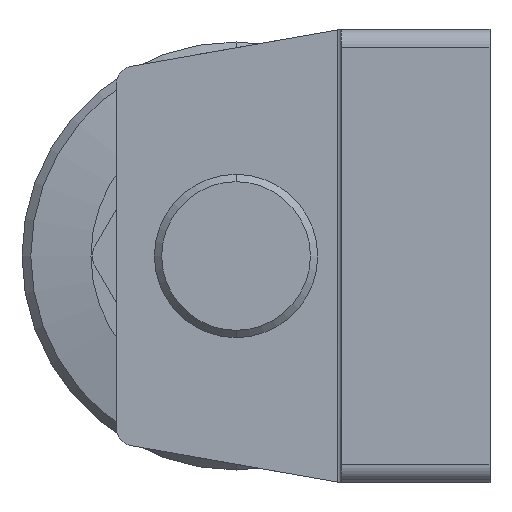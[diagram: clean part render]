
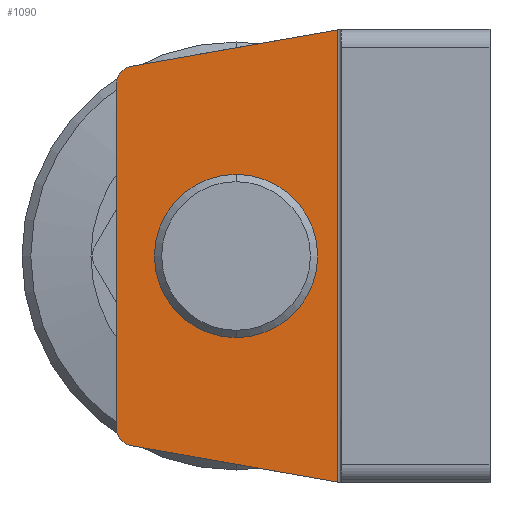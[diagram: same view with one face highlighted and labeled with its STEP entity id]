
A CAD part, left-side view. The second image highlights one B-rep face of the part: STEP entity #1090.
In plain terms, the highlighted planar face has unit normal (-1, 0, 0).
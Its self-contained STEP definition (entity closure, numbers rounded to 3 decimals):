
#44 = CARTESIAN_POINT ( 'NONE',  ( -41., 42., 62.5 ) ) ;
#63 = DIRECTION ( 'NONE',  ( 0., 0., -1. ) ) ;
#137 = DIRECTION ( 'NONE',  ( 1., 0., 0. ) ) ;
#141 = CIRCLE ( 'NONE', #2208, 5. ) ;
#237 = ORIENTED_EDGE ( 'NONE', *, *, #1395, .T. ) ;
#242 = EDGE_CURVE ( 'NONE', #2427, #638, #141, .T. ) ;
#246 = CARTESIAN_POINT ( 'NONE',  ( -41., 98.868, 52.296 ) ) ;
#357 = DIRECTION ( 'NONE',  ( 0., 0., -1. ) ) ;
#368 = CARTESIAN_POINT ( 'NONE',  ( -41., 103., 62.5 ) ) ;
#417 = VECTOR ( 'NONE', #2266, 1000. ) ;
#453 = ORIENTED_EDGE ( 'NONE', *, *, #1525, .T. ) ;
#536 = ORIENTED_EDGE ( 'NONE', *, *, #563, .T. ) ;
#563 = EDGE_CURVE ( 'NONE', #1045, #1267, #677, .T. ) ;
#629 = EDGE_CURVE ( 'NONE', #756, #1905, #1755, .T. ) ;
#638 = VERTEX_POINT ( 'NONE', #1973 ) ;
#677 = CIRCLE ( 'NONE', #1119, 22.5 ) ;
#756 = VERTEX_POINT ( 'NONE', #246 ) ;
#845 = LINE ( 'NONE', #368, #417 ) ;
#937 = LINE ( 'NONE', #44, #1334 ) ;
#1045 = VERTEX_POINT ( 'NONE', #2366 ) ;
#1049 = ORIENTED_EDGE ( 'NONE', *, *, #629, .T. ) ;
#1087 = VECTOR ( 'NONE', #1537, 1000. ) ;
#1090 = ADVANCED_FACE ( 'NONE', ( #1807, #1675 ), #2327, .F. ) ;
#1093 = EDGE_LOOP ( 'NONE', ( #536, #237 ) ) ;
#1119 = AXIS2_PLACEMENT_3D ( 'NONE', #1839, #2069, #2108 ) ;
#1140 = DIRECTION ( 'NONE',  ( 1., 0., 0. ) ) ;
#1213 = CARTESIAN_POINT ( 'NONE',  ( -41., 98., -47.372 ) ) ;
#1227 = ORIENTED_EDGE ( 'NONE', *, *, #1543, .T. ) ;
#1229 = ORIENTED_EDGE ( 'NONE', *, *, #1736, .F. ) ;
#1236 = CARTESIAN_POINT ( 'NONE',  ( -41., 42., -62.324 ) ) ;
#1243 = CARTESIAN_POINT ( 'NONE',  ( -41., 42., 62.5 ) ) ;
#1267 = VERTEX_POINT ( 'NONE', #1528 ) ;
#1285 = DIRECTION ( 'NONE',  ( 0., 0.985, -0.174 ) ) ;
#1320 = DIRECTION ( 'NONE',  ( 0., 0., -1. ) ) ;
#1334 = VECTOR ( 'NONE', #1879, 1000. ) ;
#1381 = CARTESIAN_POINT ( 'NONE',  ( -41., 70., 0. ) ) ;
#1395 = EDGE_CURVE ( 'NONE', #1267, #1045, #2235, .T. ) ;
#1497 = DIRECTION ( 'NONE',  ( -1., 0., 0. ) ) ;
#1525 = EDGE_CURVE ( 'NONE', #638, #2431, #2222, .T. ) ;
#1528 = CARTESIAN_POINT ( 'NONE',  ( -41., 70., -22.5 ) ) ;
#1537 = DIRECTION ( 'NONE',  ( 0., -0.985, -0.174 ) ) ;
#1538 = ORIENTED_EDGE ( 'NONE', *, *, #242, .T. ) ;
#1543 = EDGE_CURVE ( 'NONE', #1905, #2427, #845, .T. ) ;
#1560 = ORIENTED_EDGE ( 'NONE', *, *, #2292, .T. ) ;
#1609 = DIRECTION ( 'NONE',  ( 0., 0., -1. ) ) ;
#1659 = CARTESIAN_POINT ( 'NONE',  ( -41., 63.346, -58.56 ) ) ;
#1675 = FACE_OUTER_BOUND ( 'NONE', #1697, .T. ) ;
#1697 = EDGE_LOOP ( 'NONE', ( #1560, #1049, #1227, #1538, #453, #1229 ) ) ;
#1736 = EDGE_CURVE ( 'NONE', #1831, #2431, #937, .T. ) ;
#1755 = CIRCLE ( 'NONE', #2421, 5. ) ;
#1781 = CARTESIAN_POINT ( 'NONE',  ( -41., 42., 62.324 ) ) ;
#1807 = FACE_BOUND ( 'NONE', #1093, .T. ) ;
#1831 = VERTEX_POINT ( 'NONE', #1781 ) ;
#1839 = CARTESIAN_POINT ( 'NONE',  ( -41., 70., 0. ) ) ;
#1840 = CARTESIAN_POINT ( 'NONE',  ( -41., 41.97, 62.329 ) ) ;
#1879 = DIRECTION ( 'NONE',  ( 0., 0., -1. ) ) ;
#1891 = DIRECTION ( 'NONE',  ( -1., 0., 0. ) ) ;
#1905 = VERTEX_POINT ( 'NONE', #2275 ) ;
#1973 = CARTESIAN_POINT ( 'NONE',  ( -41., 98.868, -52.296 ) ) ;
#1989 = CARTESIAN_POINT ( 'NONE',  ( -41., 103., -47.372 ) ) ;
#2045 = AXIS2_PLACEMENT_3D ( 'NONE', #1381, #1140, #63 ) ;
#2069 = DIRECTION ( 'NONE',  ( 1., 0., 0. ) ) ;
#2108 = DIRECTION ( 'NONE',  ( 0., 0., -1. ) ) ;
#2208 = AXIS2_PLACEMENT_3D ( 'NONE', #1213, #1891, #357 ) ;
#2222 = LINE ( 'NONE', #1659, #1087 ) ;
#2235 = CIRCLE ( 'NONE', #2045, 22.5 ) ;
#2266 = DIRECTION ( 'NONE',  ( 0., 0., -1. ) ) ;
#2275 = CARTESIAN_POINT ( 'NONE',  ( -41., 103., 47.372 ) ) ;
#2282 = LINE ( 'NONE', #1840, #2384 ) ;
#2292 = EDGE_CURVE ( 'NONE', #1831, #756, #2282, .T. ) ;
#2327 = PLANE ( 'NONE',  #2388 ) ;
#2362 = CARTESIAN_POINT ( 'NONE',  ( -41., 98., 47.372 ) ) ;
#2366 = CARTESIAN_POINT ( 'NONE',  ( -41., 70., 22.5 ) ) ;
#2384 = VECTOR ( 'NONE', #1285, 1000. ) ;
#2388 = AXIS2_PLACEMENT_3D ( 'NONE', #1243, #137, #1320 ) ;
#2421 = AXIS2_PLACEMENT_3D ( 'NONE', #2362, #1497, #1609 ) ;
#2427 = VERTEX_POINT ( 'NONE', #1989 ) ;
#2431 = VERTEX_POINT ( 'NONE', #1236 ) ;
